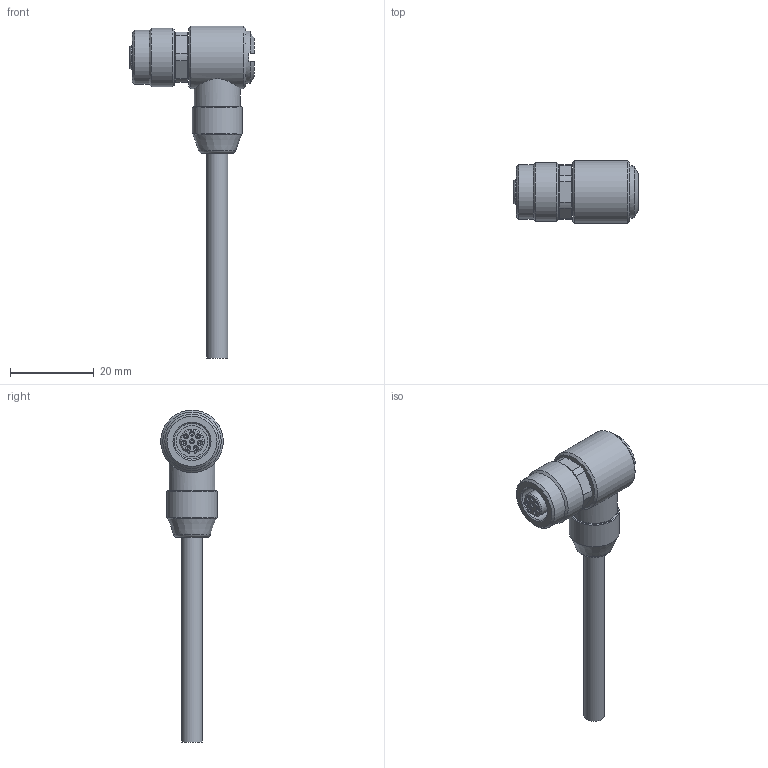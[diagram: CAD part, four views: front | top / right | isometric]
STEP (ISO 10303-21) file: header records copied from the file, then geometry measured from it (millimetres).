
FILE_DESCRIPTION(/* description */ (''),/* implementation_level */ '2;1');
FILE_NAME(/* name */ '508140_01.stp',/* time_stamp */ '2012-07-18T14:58:14+02:00',/* author */ (''),/* organization */ (''),/* preprocessor_version */ 'ST-DEVELOPER v11',/* originating_system */ 'UGS - NX 5.0',/* authorisation */ '');
FILE_SCHEMA (('AP203_CONFIGURATION_CONTROLLED_3D_DESIGN_OF_MECHANICAL_PARTS_AND_ASSEMBLIES_MIM_LF'));
Length unit declared in the file: millimetre
Products named in the file (1): 508140_01
Bounding box: 29.8 x 15 x 79.5 mm (x, y, z)
Volume: 6814.9 mm3; surface area: 3474.6 mm2
Topology: 1 solids, 1 shells, 96 faces, 203 edges, 128 vertices
Faces by surface type: plane 35, cone 32, cylinder 27, torus 2
Full cylindrical faces by diameter (mm): 0.57 x8, 5 x1, 5.2 x1, 7.5 x1, 8.5 x1, 10 x1, 11 x1, 11.6 x1, 12 x1, 12.5 x1, 13 x1, 14 x1, 15 x1
Entity records: 2583 total; most frequent: CARTESIAN_POINT 471, DIRECTION 402, ORIENTED_EDGE 300, AXIS2_PLACEMENT_3D 186, EDGE_LOOP 155, EDGE_CURVE 150, VERTEX_POINT 115, FACE_BOUND 110
